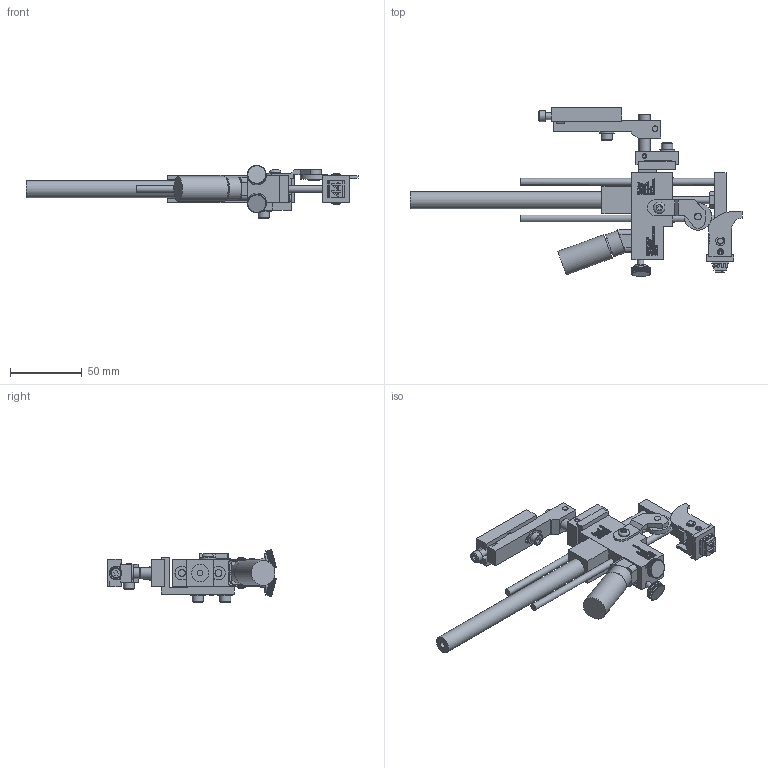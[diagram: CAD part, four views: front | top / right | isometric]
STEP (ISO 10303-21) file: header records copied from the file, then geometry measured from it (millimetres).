
FILE_DESCRIPTION((''),'2;1');
FILE_NAME('C:\Documents and Settings\Ron\My Documents\Inventor\Sprinter Drawing\Machines in Inventor\Model 44\Type\Ext Str\E2\Brkt\90\Model 44 E2 type 90 Deg w brkt.stp','2009-01-23T10:33:37',('Ron'),(''),'Autodesk Inventor 2008','Autodesk Inventor 2008','');
FILE_SCHEMA(('AUTOMOTIVE_DESIGN { 1 0 10303 214 1 1 1 1 }'));
Length unit declared in the file: inch
Products named in the file (1): Model 44 E2 type 90 Deg w brkt
Bounding box: 230.66 x 117.12 x 36.82 mm (x, y, z)
Volume: 111646.6 mm3; surface area: 54528.7 mm2
Topology: 30 solids, 30 shells, 6272 faces, 15617 edges, 9678 vertices
Faces by surface type: plane 4418, bspline 1324, cylinder 477, cone 49, torus 4
Full cylindrical faces by diameter (mm): 3.175 x4, 3.302 x1, 3.505 x1, 3.962 x1, 4.064 x6, 4.166 x1, 4.699 x1, 4.75 x4, 4.775 x1, 4.826 x7, 5.156 x5, 5.207 x2, 5.41 x2, 6.096 x1, 6.68 x1, 7.239 x1, 7.62 x1, 7.925 x7, 7.938 x1, 8.128 x1, 9.017 x1, 9.525 x2, 10.312 x4, 10.922 x1, 11.036 x1, 11.938 x2, 14.478 x1, 16.256 x1, 17.272 x1, 19.05 x1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
Entity records: 200186 total; most frequent: CARTESIAN_POINT 54695, ORIENTED_EDGE 30790, DIRECTION 23959, EDGE_CURVE 15395, VECTOR 11515, LINE 11515, VERTEX_POINT 9612, EDGE_LOOP 6839
